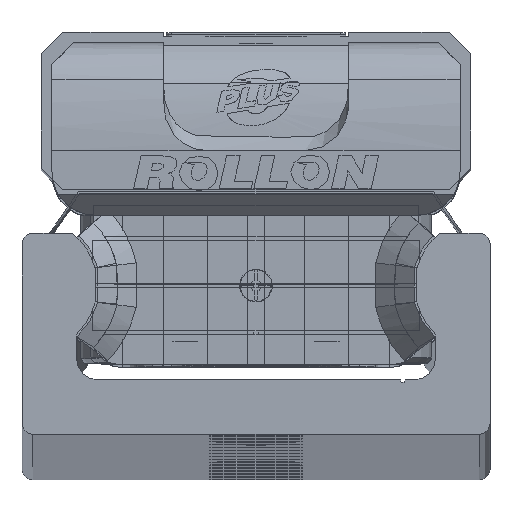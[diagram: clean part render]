
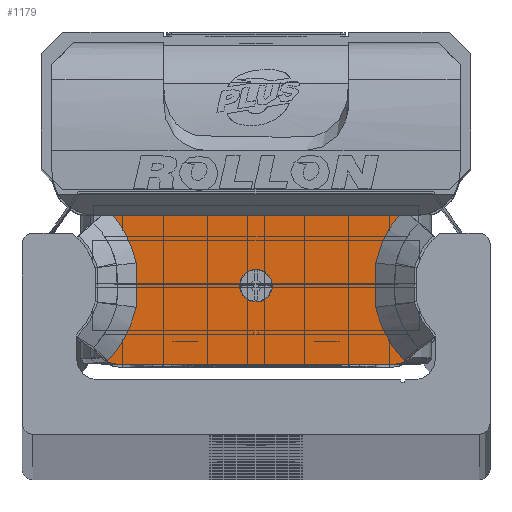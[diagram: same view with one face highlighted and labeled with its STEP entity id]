
A CAD part, top view. The second image highlights one B-rep face of the part: STEP entity #1179.
In plain terms, the highlighted planar face has unit normal (0, 0, 1) as drawn and (0, 0, -1) by its records, which use the part's own axes.
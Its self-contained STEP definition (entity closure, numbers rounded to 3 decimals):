
#1179 = ADVANCED_FACE( '', ( #2886, #2887 ), #2888, .F. );
#2886 = FACE_BOUND( '', #5301, .T. );
#2887 = FACE_OUTER_BOUND( '', #5302, .T. );
#2888 = PLANE( '', #5303 );
#5301 = EDGE_LOOP( '', ( #8648 ) );
#5302 = EDGE_LOOP( '', ( #8649, #8650, #8651, #8652, #8653, #8654, #8655, #8656, #8657, #8658, #8659, #8660 ) );
#5303 = AXIS2_PLACEMENT_3D( '', #8661, #8662, #8663 );
#8648 = ORIENTED_EDGE( '', *, *, #14047, .T. );
#8649 = ORIENTED_EDGE( '', *, *, #14048, .T. );
#8650 = ORIENTED_EDGE( '', *, *, #14049, .F. );
#8651 = ORIENTED_EDGE( '', *, *, #14050, .T. );
#8652 = ORIENTED_EDGE( '', *, *, #14051, .F. );
#8653 = ORIENTED_EDGE( '', *, *, #13247, .T. );
#8654 = ORIENTED_EDGE( '', *, *, #14052, .T. );
#8655 = ORIENTED_EDGE( '', *, *, #13199, .T. );
#8656 = ORIENTED_EDGE( '', *, *, #14053, .T. );
#8657 = ORIENTED_EDGE( '', *, *, #14054, .T. );
#8658 = ORIENTED_EDGE( '', *, *, #13520, .T. );
#8659 = ORIENTED_EDGE( '', *, *, #14055, .T. );
#8660 = ORIENTED_EDGE( '', *, *, #14056, .T. );
#8661 = CARTESIAN_POINT( '', ( 14.9, 7.35, -13.25 ) );
#8662 = DIRECTION( '', ( 0., 0., 1. ) );
#8663 = DIRECTION( '', ( 1., 0., 0. ) );
#13199 = EDGE_CURVE( '', #15533, #15531, #15534, .T. );
#13247 = EDGE_CURVE( '', #15620, #15618, #15621, .T. );
#13520 = EDGE_CURVE( '', #16098, #16104, #16106, .T. );
#14047 = EDGE_CURVE( '', #16994, #16994, #16995, .T. );
#14048 = EDGE_CURVE( '', #16996, #16997, #16998, .T. );
#14049 = EDGE_CURVE( '', #16999, #16997, #17000, .T. );
#14050 = EDGE_CURVE( '', #16999, #17001, #17002, .T. );
#14051 = EDGE_CURVE( '', #15620, #17001, #17003, .T. );
#14052 = EDGE_CURVE( '', #15618, #15533, #17004, .T. );
#14053 = EDGE_CURVE( '', #15531, #17005, #17006, .T. );
#14054 = EDGE_CURVE( '', #17005, #16098, #17007, .T. );
#14055 = EDGE_CURVE( '', #16104, #17008, #17009, .T. );
#14056 = EDGE_CURVE( '', #17008, #16996, #17010, .T. );
#15531 = VERTEX_POINT( '', #19000 );
#15533 = VERTEX_POINT( '', #19003 );
#15534 = B_SPLINE_CURVE_WITH_KNOTS( '', 2, ( #19004, #19005, #19006 ), .UNSPECIFIED., .F., .F., ( 3, 3 ), ( 0., 1. ), .UNSPECIFIED. );
#15618 = VERTEX_POINT( '', #19118 );
#15620 = VERTEX_POINT( '', #19121 );
#15621 = B_SPLINE_CURVE_WITH_KNOTS( '', 1, ( #19122, #19123 ), .UNSPECIFIED., .F., .F., ( 2, 2 ), ( 0., 1. ), .UNSPECIFIED. );
#16098 = VERTEX_POINT( '', #19751 );
#16104 = VERTEX_POINT( '', #19764 );
#16106 = B_SPLINE_CURVE_WITH_KNOTS( '', 2, ( #19767, #19768, #19769, #19770, #19771 ), .UNSPECIFIED., .F., .F., ( 3, 2, 3 ), ( 0.133, 0.5, 1. ), .UNSPECIFIED. );
#16994 = VERTEX_POINT( '', #21050 );
#16995 = CIRCLE( '', #21051, 1.5 );
#16996 = VERTEX_POINT( '', #21052 );
#16997 = VERTEX_POINT( '', #21053 );
#16998 = B_SPLINE_CURVE_WITH_KNOTS( '', 1, ( #21054, #21055 ), .UNSPECIFIED., .F., .F., ( 2, 2 ), ( 0., 1. ), .UNSPECIFIED. );
#16999 = VERTEX_POINT( '', #21056 );
#17000 = CIRCLE( '', #21057, 2.5 );
#17001 = VERTEX_POINT( '', #21058 );
#17002 = LINE( '', #21059, #21060 );
#17003 = CIRCLE( '', #21061, 2.5 );
#17004 = B_SPLINE_CURVE_WITH_KNOTS( '', 2, ( #21062, #21063, #21064, #21065, #21066 ), .UNSPECIFIED., .F., .F., ( 3, 2, 3 ), ( 0., 0.5, 1. ), .UNSPECIFIED. );
#17005 = VERTEX_POINT( '', #21067 );
#17006 = B_SPLINE_CURVE_WITH_KNOTS( '', 2, ( #21068, #21069, #21070, #21071, #21072 ), .UNSPECIFIED., .F., .F., ( 3, 2, 3 ), ( 0., 0.5, 0.868 ), .UNSPECIFIED. );
#17007 = LINE( '', #21073, #21074 );
#17008 = VERTEX_POINT( '', #21075 );
#17009 = B_SPLINE_CURVE_WITH_KNOTS( '', 2, ( #21076, #21077, #21078 ), .UNSPECIFIED., .F., .F., ( 3, 3 ), ( 0., 1. ), .UNSPECIFIED. );
#17010 = B_SPLINE_CURVE_WITH_KNOTS( '', 2, ( #21079, #21080, #21081, #21082, #21083 ), .UNSPECIFIED., .F., .F., ( 3, 2, 3 ), ( 0., 0.5, 1. ), .UNSPECIFIED. );
#19000 = CARTESIAN_POINT( '', ( -11.012, 2.045, -13.25 ) );
#19003 = CARTESIAN_POINT( '', ( -11.012, -2.045, -13.25 ) );
#19004 = CARTESIAN_POINT( '', ( -11.012, -2.045, -13.25 ) );
#19005 = CARTESIAN_POINT( '', ( -10.888, 0., -13.25 ) );
#19006 = CARTESIAN_POINT( '', ( -11.012, 2.045, -13.25 ) );
#19118 = CARTESIAN_POINT( '', ( -13.628, -6.965, -13.25 ) );
#19121 = CARTESIAN_POINT( '', ( -14.904, -5.718, -13.25 ) );
#19122 = CARTESIAN_POINT( '', ( -14.915, -5.713, -13.25 ) );
#19123 = CARTESIAN_POINT( '', ( -13.628, -6.965, -13.25 ) );
#19751 = CARTESIAN_POINT( '', ( 13.12, 6.4, -13.25 ) );
#19764 = CARTESIAN_POINT( '', ( 11.012, 2.045, -13.25 ) );
#19767 = CARTESIAN_POINT( '', ( 13.119, 6.4, -13.25 ) );
#19768 = CARTESIAN_POINT( '', ( 12.459, 5.608, -13.25 ) );
#19769 = CARTESIAN_POINT( '', ( 11.968, 4.684, -13.25 ) );
#19770 = CARTESIAN_POINT( '', ( 11.301, 3.427, -13.25 ) );
#19771 = CARTESIAN_POINT( '', ( 11.012, 2.045, -13.25 ) );
#21050 = CARTESIAN_POINT( '', ( 1.5, -0.05, -13.25 ) );
#21051 = AXIS2_PLACEMENT_3D( '', #25032, #25033, #25034 );
#21052 = CARTESIAN_POINT( '', ( 13.628, -6.965, -13.25 ) );
#21053 = CARTESIAN_POINT( '', ( 14.906, -5.717, -13.25 ) );
#21054 = CARTESIAN_POINT( '', ( 13.628, -6.965, -13.25 ) );
#21055 = CARTESIAN_POINT( '', ( 14.9, -5.728, -13.25 ) );
#21056 = CARTESIAN_POINT( '', ( 12.58, -7.3, -13.25 ) );
#21057 = AXIS2_PLACEMENT_3D( '', #25035, #25036, #25037 );
#21058 = CARTESIAN_POINT( '', ( -12.58, -7.3, -13.25 ) );
#21059 = CARTESIAN_POINT( '', ( 12.58, -7.3, -13.25 ) );
#21060 = VECTOR( '', #25038, 1000. );
#21061 = AXIS2_PLACEMENT_3D( '', #25039, #25040, #25041 );
#21062 = CARTESIAN_POINT( '', ( -13.628, -6.965, -13.25 ) );
#21063 = CARTESIAN_POINT( '', ( -12.638, -5.946, -13.25 ) );
#21064 = CARTESIAN_POINT( '', ( -11.97, -4.691, -13.25 ) );
#21065 = CARTESIAN_POINT( '', ( -11.303, -3.437, -13.25 ) );
#21066 = CARTESIAN_POINT( '', ( -11.012, -2.045, -13.25 ) );
#21067 = CARTESIAN_POINT( '', ( -13.119, 6.4, -13.25 ) );
#21068 = CARTESIAN_POINT( '', ( -11.012, 2.045, -13.25 ) );
#21069 = CARTESIAN_POINT( '', ( -11.302, 3.432, -13.25 ) );
#21070 = CARTESIAN_POINT( '', ( -11.967, 4.685, -13.25 ) );
#21071 = CARTESIAN_POINT( '', ( -12.456, 5.606, -13.25 ) );
#21072 = CARTESIAN_POINT( '', ( -13.119, 6.4, -13.25 ) );
#21073 = CARTESIAN_POINT( '', ( 14.9, 6.4, -13.25 ) );
#21074 = VECTOR( '', #25042, 1000. );
#21075 = CARTESIAN_POINT( '', ( 11.012, -2.045, -13.25 ) );
#21076 = CARTESIAN_POINT( '', ( 11.012, 2.045, -13.25 ) );
#21077 = CARTESIAN_POINT( '', ( 10.888, 0., -13.25 ) );
#21078 = CARTESIAN_POINT( '', ( 11.012, -2.045, -13.25 ) );
#21079 = CARTESIAN_POINT( '', ( 11.012, -2.045, -13.25 ) );
#21080 = CARTESIAN_POINT( '', ( 11.301, -3.43, -13.25 ) );
#21081 = CARTESIAN_POINT( '', ( 11.972, -4.69, -13.25 ) );
#21082 = CARTESIAN_POINT( '', ( 12.642, -5.95, -13.25 ) );
#21083 = CARTESIAN_POINT( '', ( 13.628, -6.965, -13.25 ) );
#25032 = CARTESIAN_POINT( '', ( 0., -0.05, -13.25 ) );
#25033 = DIRECTION( '', ( 0., 0., 1. ) );
#25034 = DIRECTION( '', ( 1., 0., 0. ) );
#25035 = CARTESIAN_POINT( '', ( 12.58, -4.8, -13.25 ) );
#25036 = DIRECTION( '', ( 0., 0., 1. ) );
#25037 = DIRECTION( '', ( 1., 0., 0. ) );
#25038 = DIRECTION( '', ( -1., 0., 0. ) );
#25039 = CARTESIAN_POINT( '', ( -12.58, -4.8, -13.25 ) );
#25040 = DIRECTION( '', ( 0., 0., 1. ) );
#25041 = DIRECTION( '', ( 1., 0., 0. ) );
#25042 = DIRECTION( '', ( 1., 0., 0. ) );
